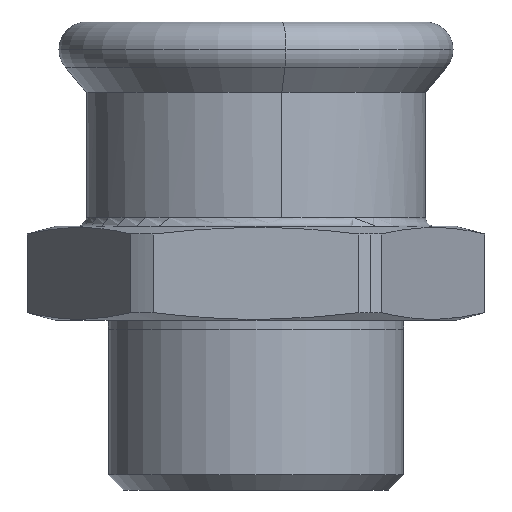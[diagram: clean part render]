
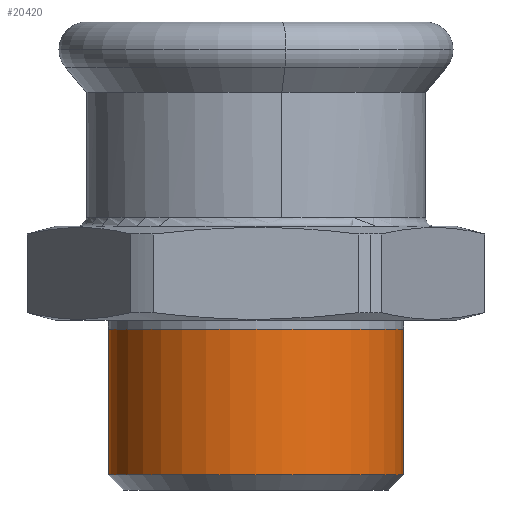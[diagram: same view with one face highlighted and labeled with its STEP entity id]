
A CAD part, front view. The second image highlights one B-rep face of the part: STEP entity #20420.
In plain terms, the highlighted cylindrical face has radius 16.625 mm (diameter 33.249 mm), a partial arc.
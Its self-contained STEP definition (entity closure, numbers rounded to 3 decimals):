
#18140=CARTESIAN_POINT('',(42.44,55.358,0.));
#18150=DIRECTION('',(0.,0.,-1.));
#18160=DIRECTION('',(1.,0.,0.));
#18170=AXIS2_PLACEMENT_3D('',#18140,#18150,#18160);
#18180=CYLINDRICAL_SURFACE('',#18170,16.625);
#18860=CARTESIAN_POINT('',(25.815,55.358,-1.));
#18870=VERTEX_POINT('',#18860);
#18900=CARTESIAN_POINT('',(42.44,55.358,-1.));
#18910=DIRECTION('',(0.,0.,-1.));
#18920=DIRECTION('',(1.,0.,0.));
#18930=AXIS2_PLACEMENT_3D('',#18900,#18910,#18920);
#18940=CIRCLE('',#18930,16.625);
#18950=CARTESIAN_POINT('',(59.064,55.358,-1.));
#18960=VERTEX_POINT('',#18950);
#19090=CARTESIAN_POINT('',(25.815,55.358,0.));
#19100=DIRECTION('',(0.,0.,-1.));
#19110=VECTOR('',#19100,1.);
#19120=LINE('',#19090,#19110);
#19130=CARTESIAN_POINT('',(25.815,55.358,-17.4));
#19140=VERTEX_POINT('',#19130);
#19150=EDGE_CURVE('',#18870,#19140,#19120,.T.);
#19170=CARTESIAN_POINT('',(42.44,55.358,-17.4));
#19180=DIRECTION('',(0.,0.,-1.));
#19190=DIRECTION('',(-1.,0.,0.));
#19200=AXIS2_PLACEMENT_3D('',#19170,#19180,#19190);
#19210=CIRCLE('',#19200,16.625);
#19220=CARTESIAN_POINT('',(59.064,55.358,-17.4));
#19230=VERTEX_POINT('',#19220);
#19260=CARTESIAN_POINT('',(59.064,55.358,0.));
#19270=DIRECTION('',(0.,0.,-1.));
#19280=VECTOR('',#19270,1.);
#19290=LINE('',#19260,#19280);
#19300=EDGE_CURVE('',#18960,#19230,#19290,.T.);
#20340=EDGE_CURVE('',#19230,#19140,#19210,.T.);
#20350=ORIENTED_EDGE('',*,*,#20340,.F.);
#20360=ORIENTED_EDGE('',*,*,#19150,.T.);
#20370=EDGE_CURVE('',#18960,#18870,#18940,.T.);
#20380=ORIENTED_EDGE('',*,*,#20370,.T.);
#20390=ORIENTED_EDGE('',*,*,#19300,.F.);
#20400=EDGE_LOOP('',(#20390,#20380,#20360,#20350));
#20410=FACE_OUTER_BOUND('',#20400,.T.);
#20420=ADVANCED_FACE('',(#20410),#18180,.T.);
